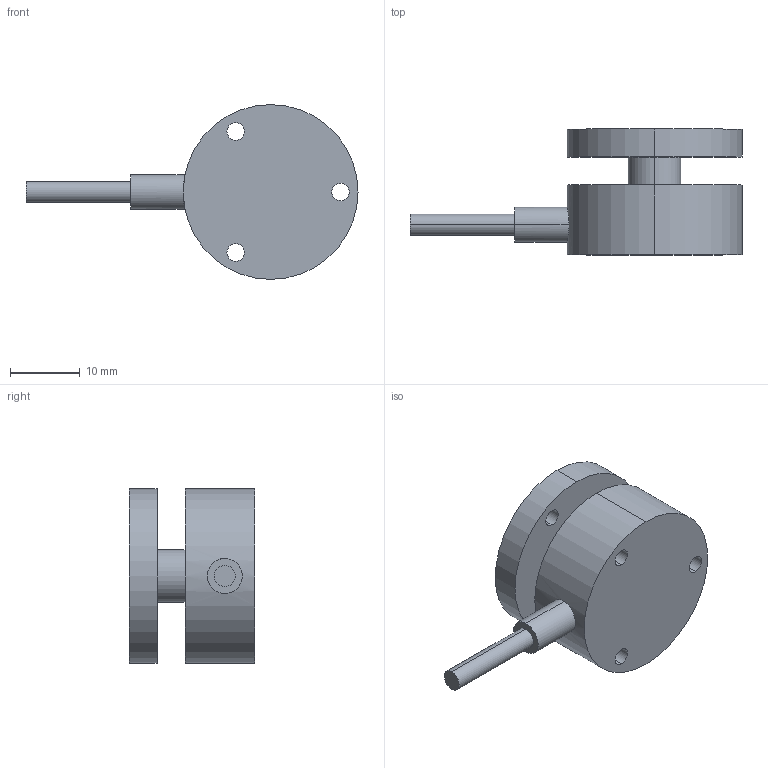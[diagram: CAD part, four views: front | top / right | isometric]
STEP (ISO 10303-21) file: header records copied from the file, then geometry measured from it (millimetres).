
FILE_DESCRIPTION (( 'STEP AP203' ), '1' );
FILE_NAME ('DYMH-105膜盒.STEP', '2021-10-13T00:45:47', ( '微软用户' ), ( '微软中国' ), 'SwSTEP 2.0', 'SolidWorks 2016', '' );
FILE_SCHEMA (( 'CONFIG_CONTROL_DESIGN' ));
Length unit declared in the file: millimetre
Products named in the file (1): DYMH-105臚碟
Bounding box: 47.5 x 18 x 25 mm (x, y, z)
Volume: 7097.3 mm3; surface area: 3601 mm2
Topology: 1 solids, 1 shells, 28 faces, 66 edges, 44 vertices
Faces by surface type: cylinder 22, plane 6
Entity records: 987 total; most frequent: CARTESIAN_POINT 197, DIRECTION 164, ORIENTED_EDGE 132, AXIS2_PLACEMENT_3D 71, EDGE_CURVE 66, EDGE_LOOP 44, VERTEX_POINT 44, CIRCLE 42
